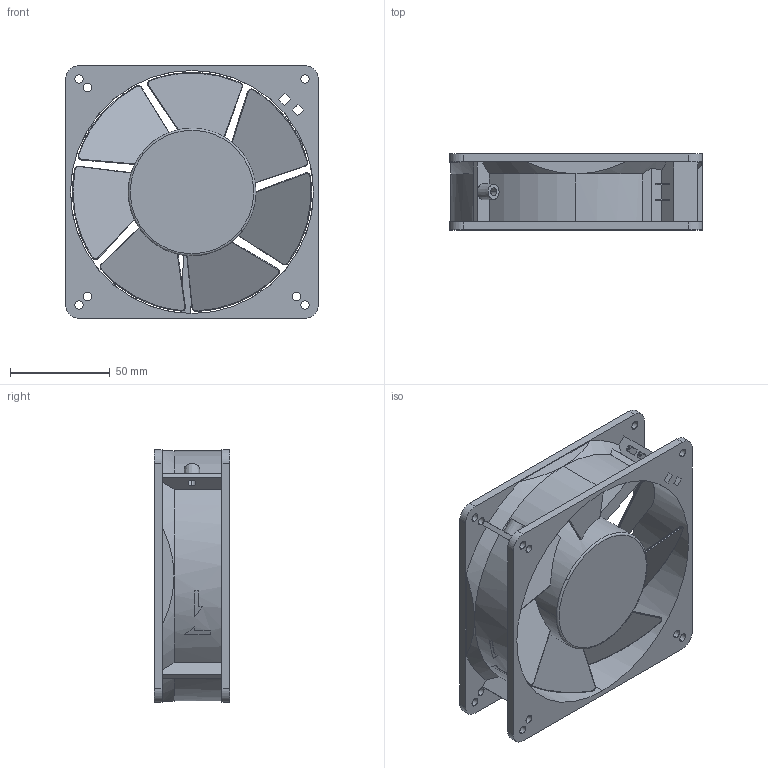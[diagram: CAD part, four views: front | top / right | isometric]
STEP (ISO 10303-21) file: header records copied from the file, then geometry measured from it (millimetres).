
FILE_DESCRIPTION (( 'STEP AP203' ), '1' );
FILE_NAME ('A13B23HTBF00.STEP', '2022-04-20T11:57:41', ( '' ), ( '' ), 'SwSTEP 2.0', 'SolidWorks 2019', '' );
FILE_SCHEMA (( 'CONFIG_CONTROL_DESIGN' ));
Length unit declared in the file: millimetre
Products named in the file (1): A13B23HTBF00
Bounding box: 127 x 38 x 127 mm (x, y, z)
Volume: 165586.4 mm3; surface area: 93354.3 mm2
Topology: 4 solids, 4 shells, 315 faces, 873 edges, 572 vertices
Faces by surface type: plane 121, cylinder 118, bspline 67, cone 9
Entity records: 15401 total; most frequent: CARTESIAN_POINT 7859, ORIENTED_EDGE 1746, DIRECTION 1293, EDGE_CURVE 873, VERTEX_POINT 572, AXIS2_PLACEMENT_3D 457, VECTOR 379, LINE 379
